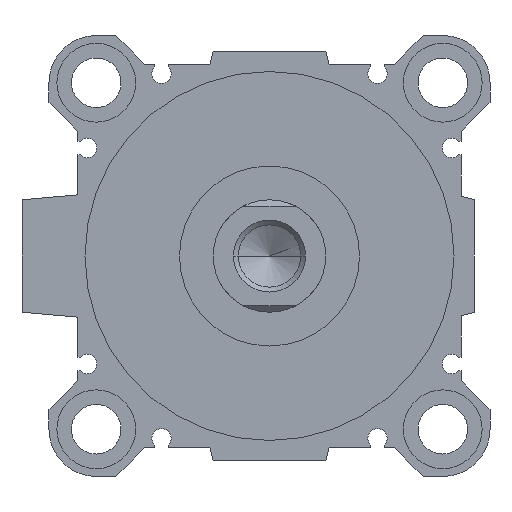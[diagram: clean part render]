
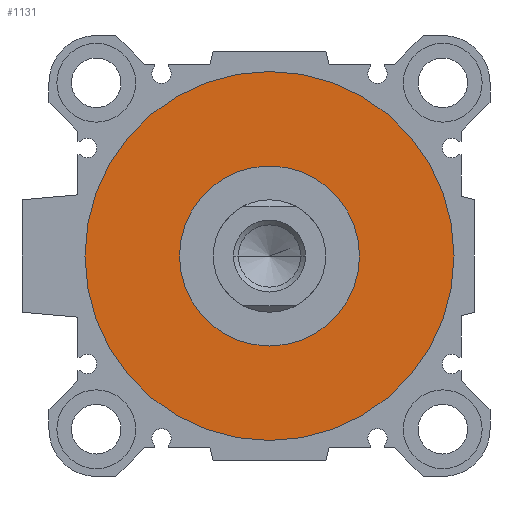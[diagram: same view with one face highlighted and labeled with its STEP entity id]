
A CAD part, left-side view. The second image highlights one B-rep face of the part: STEP entity #1131.
In plain terms, the highlighted planar face has unit normal (-1, 0, 0).
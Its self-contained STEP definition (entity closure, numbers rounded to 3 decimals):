
#140 = AXIS2_PLACEMENT_3D ( 'NONE', #1246, #3386, #1275 ) ;
#365 = AXIS2_PLACEMENT_3D ( 'NONE', #1842, #3583, #1502 ) ;
#522 = ORIENTED_EDGE ( 'NONE', *, *, #4327, .F. ) ;
#561 = ORIENTED_EDGE ( 'NONE', *, *, #3565, .F. ) ;
#593 = FACE_BOUND ( 'NONE', #2121, .T. ) ;
#1131 = ADVANCED_FACE ( 'NONE', ( #1843, #593 ), #3503, .F. ) ;
#1246 = CARTESIAN_POINT ( 'NONE',  ( 5., 0., 0. ) ) ;
#1275 = DIRECTION ( 'NONE',  ( 0., 0., -1. ) ) ;
#1336 = DIRECTION ( 'NONE',  ( 1., 0., 0. ) ) ;
#1424 = VERTEX_POINT ( 'NONE', #5059 ) ;
#1502 = DIRECTION ( 'NONE',  ( 0., 0., -1. ) ) ;
#1504 = VERTEX_POINT ( 'NONE', #2139 ) ;
#1814 = CARTESIAN_POINT ( 'NONE',  ( 5., 0., 0. ) ) ;
#1842 = CARTESIAN_POINT ( 'NONE',  ( 5., 0., 0. ) ) ;
#1843 = FACE_OUTER_BOUND ( 'NONE', #5203, .T. ) ;
#1866 = DIRECTION ( 'NONE',  ( 0., 1., 0. ) ) ;
#1881 = ORIENTED_EDGE ( 'NONE', *, *, #2976, .T. ) ;
#2121 = EDGE_LOOP ( 'NONE', ( #1881, #4781 ) ) ;
#2139 = CARTESIAN_POINT ( 'NONE',  ( 5., 0., -20. ) ) ;
#2165 = DIRECTION ( 'NONE',  ( 1., 0., 0. ) ) ;
#2240 = AXIS2_PLACEMENT_3D ( 'NONE', #4236, #2165, #3822 ) ;
#2524 = VERTEX_POINT ( 'NONE', #3671 ) ;
#2722 = AXIS2_PLACEMENT_3D ( 'NONE', #3361, #1336, #3019 ) ;
#2725 = DIRECTION ( 'NONE',  ( 1., 0., 0. ) ) ;
#2756 = CIRCLE ( 'NONE', #365, 20. ) ;
#2976 = EDGE_CURVE ( 'NONE', #1424, #1504, #3062, .T. ) ;
#3019 = DIRECTION ( 'NONE',  ( 0., 0., -1. ) ) ;
#3062 = CIRCLE ( 'NONE', #2722, 20. ) ;
#3197 = AXIS2_PLACEMENT_3D ( 'NONE', #1814, #2725, #1866 ) ;
#3220 = EDGE_CURVE ( 'NONE', #1504, #1424, #2756, .T. ) ;
#3320 = CARTESIAN_POINT ( 'NONE',  ( 5., 0., -41. ) ) ;
#3361 = CARTESIAN_POINT ( 'NONE',  ( 5., 0., 0. ) ) ;
#3386 = DIRECTION ( 'NONE',  ( 1., 0., 0. ) ) ;
#3503 = PLANE ( 'NONE',  #3197 ) ;
#3565 = EDGE_CURVE ( 'NONE', #4713, #2524, #3891, .T. ) ;
#3583 = DIRECTION ( 'NONE',  ( 1., 0., 0. ) ) ;
#3633 = CIRCLE ( 'NONE', #140, 41. ) ;
#3671 = CARTESIAN_POINT ( 'NONE',  ( 5., 0., 41. ) ) ;
#3822 = DIRECTION ( 'NONE',  ( 0., 0., -1. ) ) ;
#3891 = CIRCLE ( 'NONE', #2240, 41. ) ;
#4236 = CARTESIAN_POINT ( 'NONE',  ( 5., 0., 0. ) ) ;
#4327 = EDGE_CURVE ( 'NONE', #2524, #4713, #3633, .T. ) ;
#4713 = VERTEX_POINT ( 'NONE', #3320 ) ;
#4781 = ORIENTED_EDGE ( 'NONE', *, *, #3220, .T. ) ;
#5059 = CARTESIAN_POINT ( 'NONE',  ( 5., 0., 20. ) ) ;
#5203 = EDGE_LOOP ( 'NONE', ( #522, #561 ) ) ;
